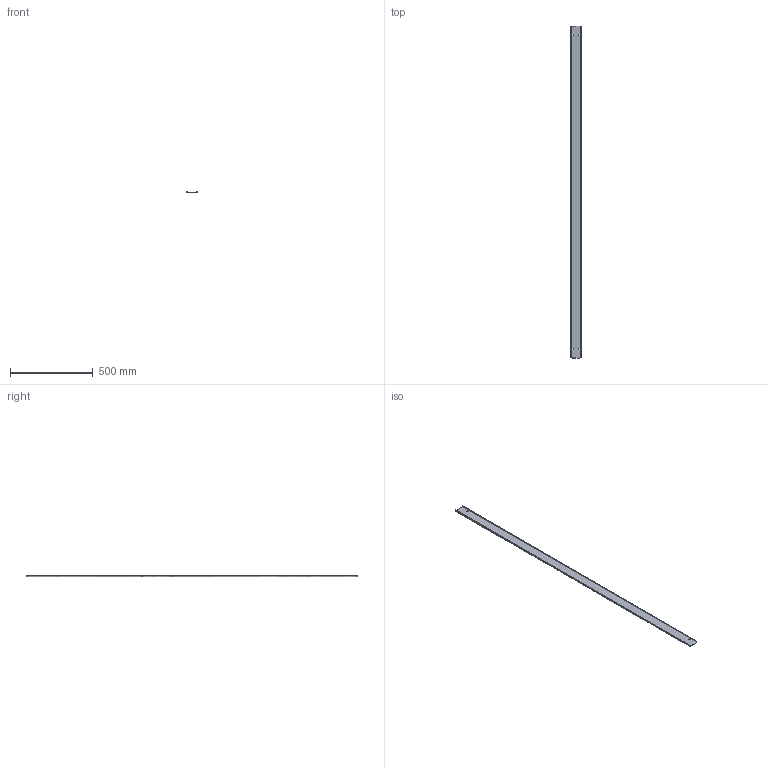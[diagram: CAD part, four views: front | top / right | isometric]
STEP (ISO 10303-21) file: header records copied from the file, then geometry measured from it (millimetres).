
FILE_DESCRIPTION(/* description */ (''),/* implementation_level */ '2;1');
FILE_NAME(/* name */ 'VZM050',/* time_stamp */ '2012-11-29T22:55:07+01:00',/* author */ (''),/* organization */ (''),/* preprocessor_version */ 'ST-DEVELOPER v10',/* originating_system */ '',/* authorisation */ '');
FILE_SCHEMA (('AUTOMOTIVE_DESIGN_CC2'));
Length unit declared in the file: millimetre
Products named in the file (1): 1
Bounding box: 61 x 2002 x 10.5 mm (x, y, z)
Surface area: 317196.5 mm2 (no closed solid volume)
Topology: 0 solids, 22 shells, 22 faces, 120 edges, 120 vertices
Faces by surface type: plane 20, bspline 2
Entity records: 1484 total; most frequent: CARTESIAN_POINT 626, ORIENTED_EDGE 120, EDGE_CURVE 120, VERTEX_POINT 120, B_SPLINE_CURVE_WITH_KNOTS 112, EDGE_LOOP 30, DIRECTION 24, COLOUR_RGB 22
